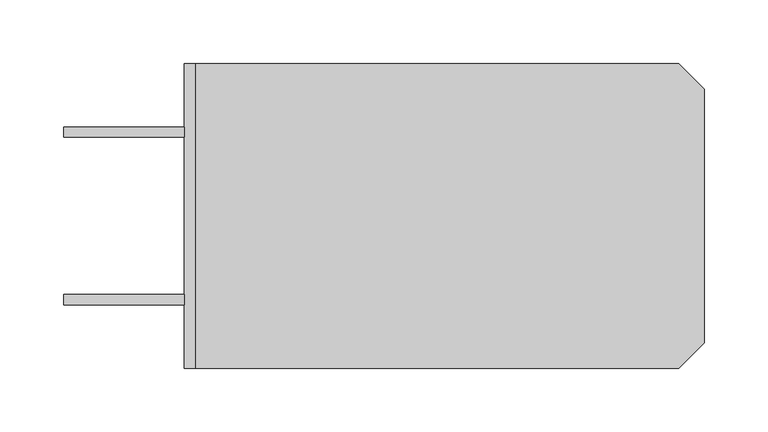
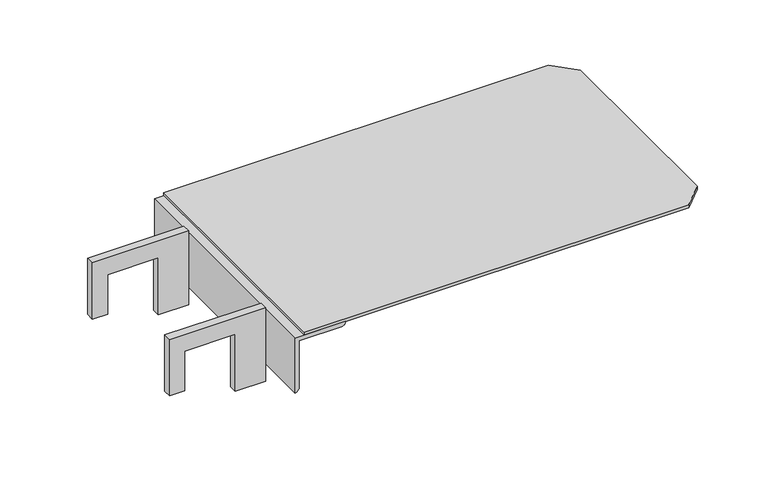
"""IFC4 building model written with IfcOpenShell, lengths in millimetres: proxy geometry, AK_補助布板HF-205_軽 : AK_補助布板HF-205_軽."""

from ifc_helpers import new_model, si_unit, point, frame, frame_2d, origin, place, context, project, spatial, polyline, circle_curve, trimmed, segment, composite_curve, outline, extrude, source, transform, mapped, element, save


def generic_models_65f5dfb3(model_context):
    return source(origin(), model_context, "Body", "SweptSolid", [
        extrude(outline(polyline([(-19.2565864, -145.0), (-19.2565864, -130.0), (22.0, -130.0), (22.0, -80.0), (-37.4789045, -80.0), (-37.4789045, -50.0), (39.5, -50.0), (39.5, -145.0), (-19.2565864, -145.0)])), frame((0.0, 50.0, 0.0), z_axis=(0.0, 1.0, 0.0), x_axis=(0.0, 0.0, 1.0)), (0.0, 0.0, 1.0), 8.0),
        extrude(outline(polyline([(39.5, -145.0), (-19.2565864, -145.0), (-19.2565864, -130.0), (22.0, -130.0), (22.0, -80.0), (-37.4789045, -80.0), (-37.4789045, -50.0), (39.5, -50.0), (39.5, -145.0)])), frame((0.0, 182.0, 0.0), z_axis=(0.0, 1.0, 0.0), x_axis=(0.0, 0.0, 1.0)), (0.0, 0.0, 1.0), 8.0),
        extrude(outline(composite_curve([segment(polyline([(37.9, -50.0), (-19.2499, -50.0)]), True, "CONTINUOUS"), segment(trimmed(circle_curve(frame_2d((-15.2499, -50.0)), 4.0), [point((-19.2499, -50.0))], [point((-15.2499, -46.0))], False, "CARTESIAN"), True, "CONTINUOUS"), segment(polyline([(-15.2499, -46.0), (33.9, -46.0), (33.9, -4.0)]), True, "CONTINUOUS"), segment(trimmed(circle_curve(frame_2d((37.9, -4.0)), 4.0), [point((33.9, -4.0))], [point((37.9, 0.0))], False, "CARTESIAN"), True, "CONTINUOUS"), segment(polyline([(37.9, 0.0), (37.9, -50.0)]), True, "CONTINUOUS")], self_intersect=False)), frame((0.0, 0.0, 0.0), z_axis=(0.0, 1.0, 0.0), x_axis=(0.0, 0.0, 1.0)), (0.0, 0.0, 1.0), 240.0),
        extrude(outline(polyline([(-41.0, 240.0), (339.0, 240.0), (359.0, 220.0), (359.0, 20.0), (339.0, 0.0), (-41.0, 0.0), (-41.0, 240.0)])), frame((0.0, 0.0, 37.9), z_axis=(0.0, 0.0, 1.0), x_axis=(1.0, 0.0, 0.0)), (0.0, 0.0, 1.0), 3.2),
    ])


if __name__ == "__main__":
    model = new_model("IFC4")
    model_context = context("Model", 3, world=origin())
    ifc_project = project(units=[si_unit("LENGTHUNIT", "METRE", prefix="MILLI")], contexts=[model_context])
    site = spatial("IfcSite", under=ifc_project)
    building = spatial("IfcBuilding", under=site)
    placement = place(None, origin())
    generic_models_shape = generic_models_65f5dfb3(model_context)
    element("IfcBuildingElementProxy", 1, Name="AK_補助布板HF-205_軽 : AK_補助布板HF-205_軽", ObjectType="AK_補助布板HF-205_軽 : AK_補助布板HF-205_軽", at=placement, inside=building, context=model_context, shape_type="MappedRepresentation", body=[
        mapped(generic_models_shape, transform((0.0, 0.0, 0.0), x_axis=(1.0, 0.0, 0.0), y_axis=(0.0, 1.0, 0.0), z_axis=(0.0, 0.0, 1.0))),
    ])
    save(model, "model.ifc")
